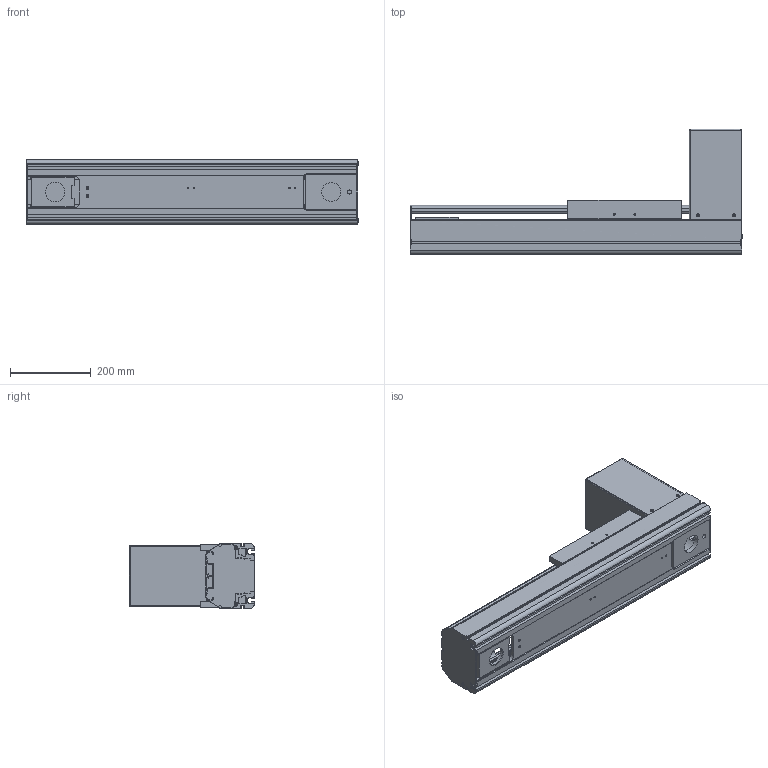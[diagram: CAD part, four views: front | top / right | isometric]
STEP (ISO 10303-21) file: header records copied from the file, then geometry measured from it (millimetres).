
FILE_DESCRIPTION((''),'2;1');
FILE_NAME('BE50G-BT-L19N-25_IGS_PRT','2017-06-18T',(' '),(''),'PRO/ENGINEER BY PARAMETRIC TECHNOLOGY CORPORATION, 2015030','PRO/ENGINEER BY PARAMETRIC TECHNOLOGY CORPORATION, 2015030','');
FILE_SCHEMA(('CONFIG_CONTROL_DESIGN'));
Length unit declared in the file: millimetre
Products named in the file (1): BE50G-BT-L19N-25_IGS_PRT
Bounding box: 820 x 309 x 160 mm (x, y, z)
Volume: 5018480.2 mm3; surface area: 1837245.8 mm2
Topology: 2 solids, 121 shells, 1763 faces, 4795 edges, 3148 vertices
Faces by surface type: cylinder 843, plane 767, cone 110, sphere 23, torus 20
Entity records: 57532 total; most frequent: CARTESIAN_POINT 12179, DIRECTION 9661, ORIENTED_EDGE 9022, EDGE_CURVE 4721, AXIS2_PLACEMENT_3D 3569, VERTEX_POINT 3148, VECTOR 2523, LINE 2523
